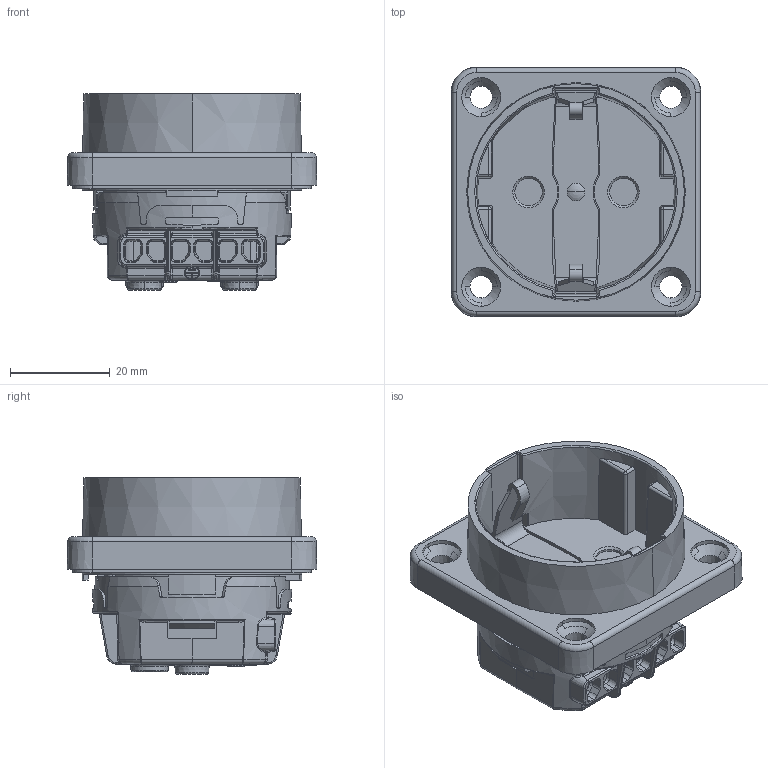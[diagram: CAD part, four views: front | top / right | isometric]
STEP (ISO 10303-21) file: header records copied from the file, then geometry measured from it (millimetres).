
FILE_DESCRIPTION((''),'2;1');
FILE_NAME('1115967_ASM_SW0001','2018-03-02T',('gisse'),('MENNEKES'),'PRO/ENGINEER BY PARAMETRIC TECHNOLOGY CORPORATION, 2015440','PRO/ENGINEER BY PARAMETRIC TECHNOLOGY CORPORATION, 2015440','');
FILE_SCHEMA(('AUTOMOTIVE_DESIGN { 1 0 10303 214 1 1 1 1 }'));
Products named in the file (1): 1115967_ASM_SW0001
Bounding box: 50 x 50 x 39.32 mm (x, y, z)
Volume: 33168.6 mm3; surface area: 14758.2 mm2
Topology: 1 solids, 1 shells, 1188 faces, 3077 edges, 1924 vertices
Faces by surface type: plane 528, cylinder 295, bspline 160, cone 144, torus 44, sphere 16, extrusion 1
Entity records: 56526 total; most frequent: CARTESIAN_POINT 15005, ORIENTED_EDGE 6142, DIRECTION 5271, EDGE_CURVE 3071, FILL_AREA_STYLE_COLOUR 2227, FILL_AREA_STYLE 2227, SURFACE_STYLE_FILL_AREA 2227, SURFACE_SIDE_STYLE 2227
